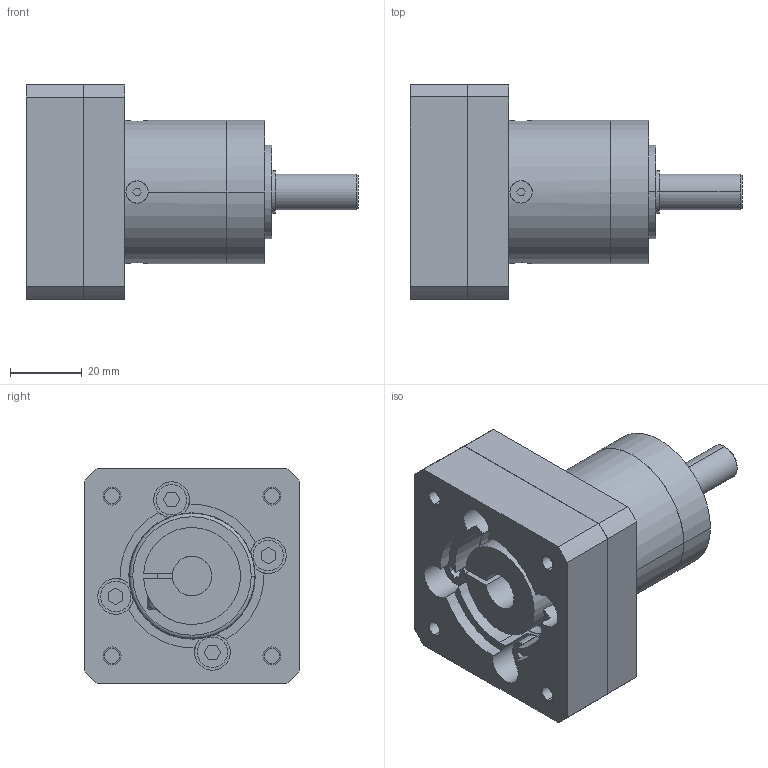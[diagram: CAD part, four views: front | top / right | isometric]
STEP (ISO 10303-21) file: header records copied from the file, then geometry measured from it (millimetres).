
FILE_DESCRIPTION((''),'2;1');
FILE_NAME('MB_PLE_MASTER','2019-07-18T',('agw'),(''),'CREO PARAMETRIC BY PTC INC, 2015290','CREO PARAMETRIC BY PTC INC, 2015290','');
FILE_SCHEMA(('AUTOMOTIVE_DESIGN { 1 0 10303 214 1 1 1 1 }'));
Length unit declared in the file: millimetre
Products named in the file (1): MB_PLE_MASTER
Bounding box: 92.5 x 60 x 60 mm (x, y, z)
Volume: 133999.9 mm3; surface area: 28476.5 mm2
Topology: 1 solids, 10 shells, 234 faces, 559 edges, 368 vertices
Faces by surface type: plane 128, cylinder 100, torus 4, cone 2
Entity records: 7750 total; most frequent: CARTESIAN_POINT 1338, DIRECTION 1235, ORIENTED_EDGE 1086, EDGE_CURVE 559, AXIS2_PLACEMENT_3D 458, VERTEX_POINT 368, VECTOR 319, LINE 319
